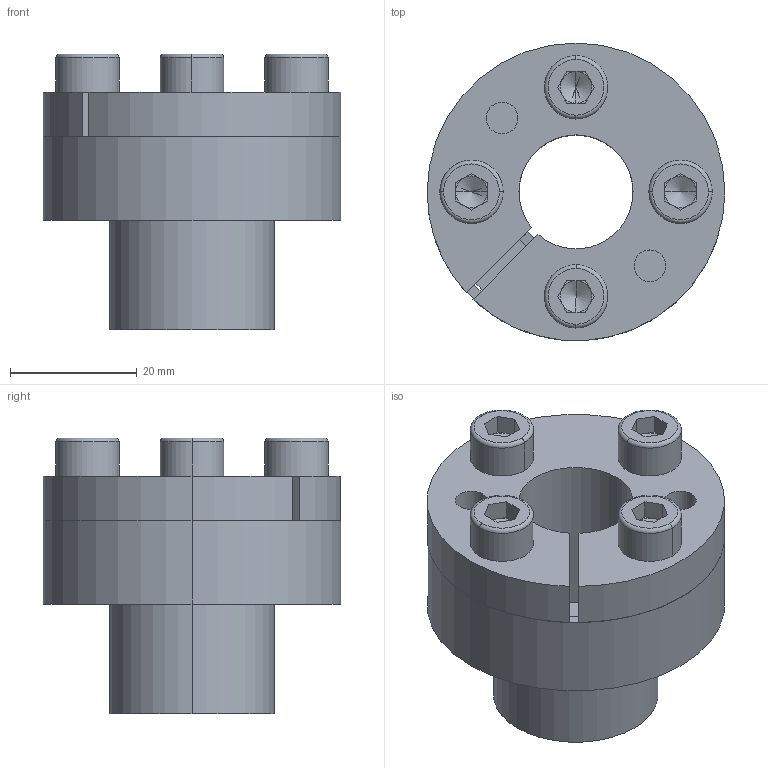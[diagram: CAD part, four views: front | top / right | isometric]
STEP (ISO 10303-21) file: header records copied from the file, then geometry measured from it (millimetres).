
FILE_DESCRIPTION (( 'STEP AP214' ), '1' );
FILE_NAME ('CONEX-B-18x26.step', '2013-04-04T12:41:25', ( 'Pc' ), ( '' ), 'SwSTEP 2.0', 'SolidWorks 2013', '' );
FILE_SCHEMA (( 'AUTOMOTIVE_DESIGN' ));
Length unit declared in the file: millimetre
Products named in the file (1): CONEX-B-18x26
Bounding box: 47 x 47 x 43.55 mm (x, y, z)
Volume: 29825.3 mm3; surface area: 22204.7 mm2
Topology: 7 solids, 7 shells, 174 faces, 414 edges, 250 vertices
Faces by surface type: plane 72, cylinder 52, torus 24, cone 22, bspline 4
Entity records: 7198 total; most frequent: CARTESIAN_POINT 1045, DIRECTION 942, ORIENTED_EDGE 812, EDGE_CURVE 406, AXIS2_PLACEMENT_3D 379, VERTEX_POINT 250, CIRCLE 208, EDGE_LOOP 200
